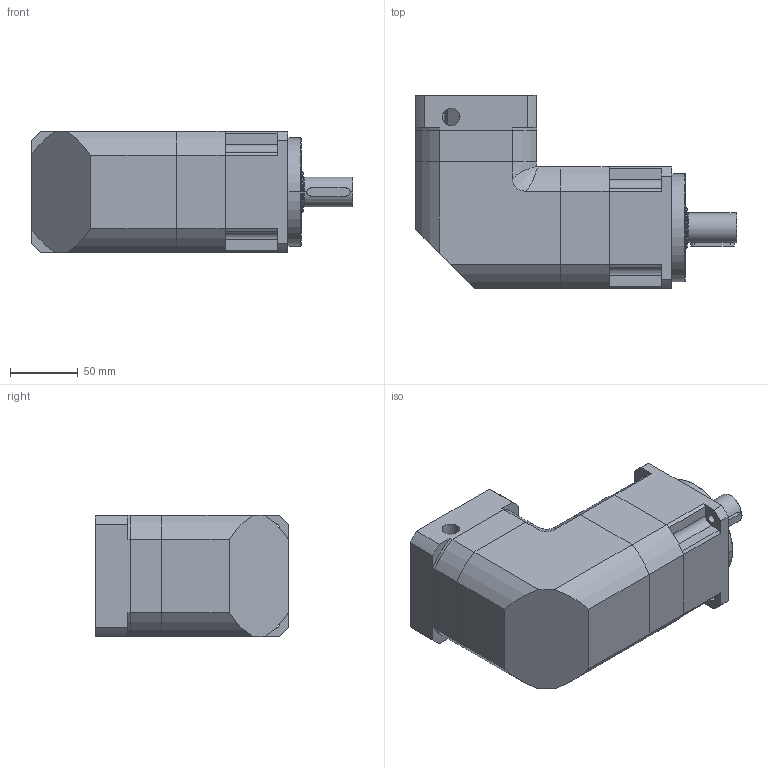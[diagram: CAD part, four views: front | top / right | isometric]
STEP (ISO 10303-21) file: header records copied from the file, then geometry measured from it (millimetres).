
FILE_DESCRIPTION(/* description */ (''),/* implementation_level */ '2;1');
FILE_NAME(/* name */ 'XABR090-L2-[ ]-P2 19-40-70-90-M6 标准22轴.step',/* time_stamp */ '2023-06-10T15:09:08+08:00',/* author */ (''),/* organization */ (''),/* preprocessor_version */ 'ST-DEVELOPER v16',/* originating_system */ 'SIEMENS PLM Software NX 10.0',/* authorisation */ '');
FILE_SCHEMA (('AUTOMOTIVE_DESIGN { 1 0 10303 214 3 1 1 1 }'));
Length unit declared in the file: millimetre
Products named in the file (1): XABR090-L2-_  _-P2 19-40-70-90-M5 标准22\X2\8F74
\X0\_step
Bounding box: 238 x 143 x 90 mm (x, y, z)
Volume: 1519945.6 mm3; surface area: 223895.1 mm2
Topology: 13 solids, 13 shells, 494 faces, 1192 edges, 746 vertices
Faces by surface type: cylinder 219, plane 199, cone 58, torus 16, bspline 2
Entity records: 15094 total; most frequent: CARTESIAN_POINT 2940, DIRECTION 2652, ORIENTED_EDGE 2312, EDGE_CURVE 1156, AXIS2_PLACEMENT_3D 1032, VERTEX_POINT 746, EDGE_LOOP 590, LINE 588
